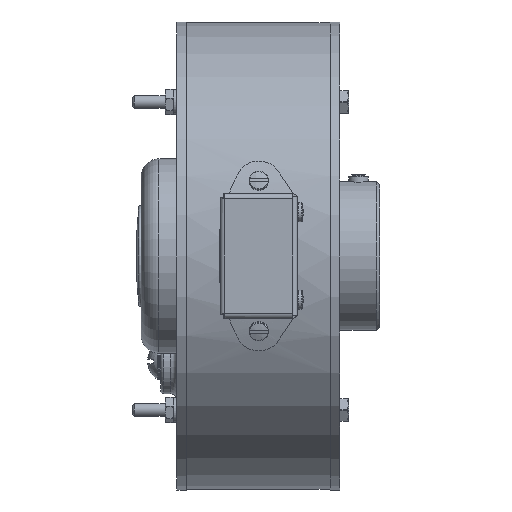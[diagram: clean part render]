
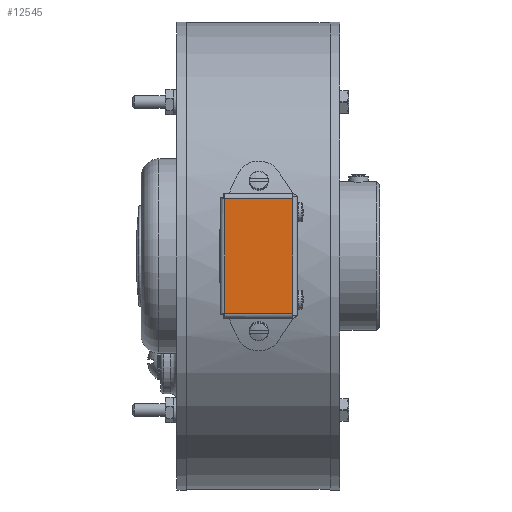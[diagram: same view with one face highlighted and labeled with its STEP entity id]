
A CAD part, left-side view. The second image highlights one B-rep face of the part: STEP entity #12545.
In plain terms, the highlighted planar face has unit normal (-1, 0, 0).
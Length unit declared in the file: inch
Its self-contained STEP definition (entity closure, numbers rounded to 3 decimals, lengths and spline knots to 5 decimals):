
#615=PLANE('',#14064);
#1503=LINE('',#24024,#2206);
#1504=LINE('',#24026,#2207);
#1505=LINE('',#24028,#2208);
#1506=LINE('',#24029,#2209);
#2206=VECTOR('',#17512,39.37008);
#2207=VECTOR('',#17513,39.37008);
#2208=VECTOR('',#17514,39.37008);
#2209=VECTOR('',#17515,39.37008);
#3130=FACE_OUTER_BOUND('',#3978,.T.);
#3978=EDGE_LOOP('',(#11052,#11053,#11054,#11055));
#6026=VERTEX_POINT('',#24022);
#6027=VERTEX_POINT('',#24023);
#6028=VERTEX_POINT('',#24025);
#6029=VERTEX_POINT('',#24027);
#7752=EDGE_CURVE('',#6026,#6027,#1503,.T.);
#7753=EDGE_CURVE('',#6027,#6028,#1504,.T.);
#7754=EDGE_CURVE('',#6029,#6028,#1505,.T.);
#7755=EDGE_CURVE('',#6029,#6026,#1506,.T.);
#11052=ORIENTED_EDGE('',*,*,#7752,.T.);
#11053=ORIENTED_EDGE('',*,*,#7753,.T.);
#11054=ORIENTED_EDGE('',*,*,#7754,.F.);
#11055=ORIENTED_EDGE('',*,*,#7755,.T.);
#12545=ADVANCED_FACE('',(#3130),#615,.F.);
#14064=AXIS2_PLACEMENT_3D('',#24021,#17510,#17511);
#17510=DIRECTION('center_axis',(1.,0.,0.));
#17511=DIRECTION('ref_axis',(0.,1.,0.));
#17512=DIRECTION('',(0.,0.,-1.));
#17513=DIRECTION('',(0.,-1.,0.));
#17514=DIRECTION('',(0.,0.,-1.));
#17515=DIRECTION('',(0.,1.,0.));
#24021=CARTESIAN_POINT('Origin',(-5.899,0.6875,0.));
#24022=CARTESIAN_POINT('',(-5.899,2.0315,1.1095));
#24023=CARTESIAN_POINT('',(-5.899,2.0315,-1.1095));
#24024=CARTESIAN_POINT('',(-5.899,2.0315,1.13343));
#24025=CARTESIAN_POINT('',(-5.899,0.7185,-1.1095));
#24026=CARTESIAN_POINT('',(-5.899,2.05543,-1.1095));
#24027=CARTESIAN_POINT('',(-5.899,0.7185,1.1095));
#24028=CARTESIAN_POINT('',(-5.899,0.7185,-1.1405));
#24029=CARTESIAN_POINT('',(-5.899,0.7185,1.1095));
